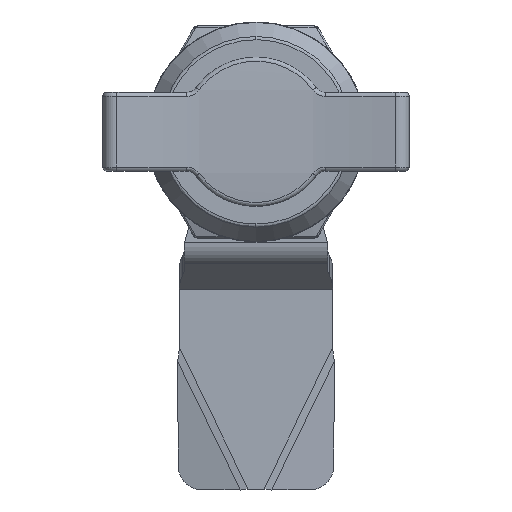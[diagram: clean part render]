
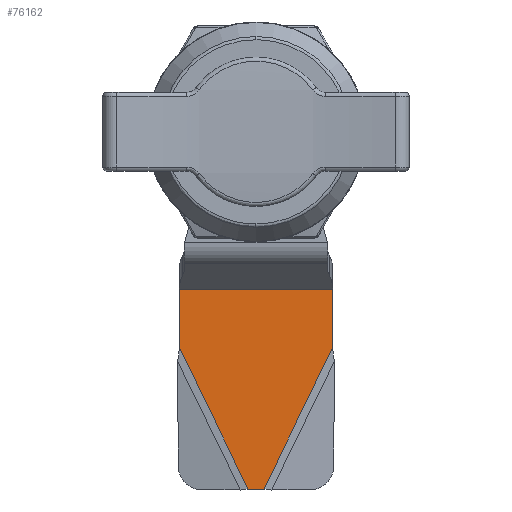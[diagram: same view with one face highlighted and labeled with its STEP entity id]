
A CAD part, top view. The second image highlights one B-rep face of the part: STEP entity #76162.
In plain terms, the highlighted planar face has unit normal (0, 0, 1) as drawn and (0, 1, 0) by its records, which use the part's own axes.
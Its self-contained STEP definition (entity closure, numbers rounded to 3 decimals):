
#55 = CARTESIAN_POINT ( 'NONE',  ( -53.95, -7., -1. ) ) ;
#118 = VERTEX_POINT ( 'NONE', #10189 ) ;
#7516 = LINE ( 'NONE', #38605, #61384 ) ;
#8392 = VECTOR ( 'NONE', #24409, 1000. ) ;
#10189 = CARTESIAN_POINT ( 'NONE',  ( -28.555, -7., -9.75 ) ) ;
#13082 = EDGE_CURVE ( 'NONE', #58122, #118, #92235, .T. ) ;
#15057 = DIRECTION ( 'NONE',  ( 0., 0., 1. ) ) ;
#16306 = ORIENTED_EDGE ( 'NONE', *, *, #13082, .T. ) ;
#17354 = CARTESIAN_POINT ( 'NONE',  ( -28.555, -7., 9.75 ) ) ;
#19736 = EDGE_LOOP ( 'NONE', ( #80976, #16306, #82785, #37657, #66783, #93226 ) ) ;
#24409 = DIRECTION ( 'NONE',  ( 0., 0., -1. ) ) ;
#26128 = AXIS2_PLACEMENT_3D ( 'NONE', #59539, #75839, #29441 ) ;
#26592 = VERTEX_POINT ( 'NONE', #36480 ) ;
#26873 = EDGE_CURVE ( 'NONE', #30981, #88372, #84396, .T. ) ;
#28427 = PLANE ( 'NONE',  #26128 ) ;
#29441 = DIRECTION ( 'NONE',  ( 0., 0., 1. ) ) ;
#30635 = LINE ( 'NONE', #61743, #93879 ) ;
#30824 = EDGE_CURVE ( 'NONE', #118, #26592, #30635, .T. ) ;
#30981 = VERTEX_POINT ( 'NONE', #55 ) ;
#36095 = FACE_OUTER_BOUND ( 'NONE', #19736, .T. ) ;
#36480 = CARTESIAN_POINT ( 'NONE',  ( -35.95, -7., -9.75 ) ) ;
#37525 = EDGE_CURVE ( 'NONE', #26592, #30981, #98220, .T. ) ;
#37657 = ORIENTED_EDGE ( 'NONE', *, *, #37525, .T. ) ;
#38605 = CARTESIAN_POINT ( 'NONE',  ( -50.95, -7., 9.75 ) ) ;
#40482 = LINE ( 'NONE', #46109, #88994 ) ;
#45129 = CARTESIAN_POINT ( 'NONE',  ( -53.95, -7., -6.75 ) ) ;
#46109 = CARTESIAN_POINT ( 'NONE',  ( -17.58, -7., 18.68 ) ) ;
#49110 = CARTESIAN_POINT ( 'NONE',  ( -53.95, -7., 1. ) ) ;
#58122 = VERTEX_POINT ( 'NONE', #17354 ) ;
#59539 = CARTESIAN_POINT ( 'NONE',  ( -4.863, -7., 0. ) ) ;
#61029 = CARTESIAN_POINT ( 'NONE',  ( -17.58, -7., -18.68 ) ) ;
#61384 = VECTOR ( 'NONE', #69174, 1000. ) ;
#61743 = CARTESIAN_POINT ( 'NONE',  ( -50.95, -7., -9.75 ) ) ;
#63689 = EDGE_CURVE ( 'NONE', #82625, #88372, #40482, .T. ) ;
#66783 = ORIENTED_EDGE ( 'NONE', *, *, #26873, .T. ) ;
#68086 = CARTESIAN_POINT ( 'NONE',  ( -35.95, -7., 9.75 ) ) ;
#69174 = DIRECTION ( 'NONE',  ( 1., 0., 0. ) ) ;
#70298 = CARTESIAN_POINT ( 'NONE',  ( -28.555, -7., 0. ) ) ;
#74033 = VECTOR ( 'NONE', #90608, 1000. ) ;
#75839 = DIRECTION ( 'NONE',  ( 0., 1., 0. ) ) ;
#76162 = ADVANCED_FACE ( 'NONE', ( #36095 ), #28427, .T. ) ;
#80976 = ORIENTED_EDGE ( 'NONE', *, *, #93344, .T. ) ;
#82625 = VERTEX_POINT ( 'NONE', #68086 ) ;
#82785 = ORIENTED_EDGE ( 'NONE', *, *, #30824, .T. ) ;
#84396 = LINE ( 'NONE', #45129, #92731 ) ;
#88372 = VERTEX_POINT ( 'NONE', #49110 ) ;
#88994 = VECTOR ( 'NONE', #100631, 1000. ) ;
#90608 = DIRECTION ( 'NONE',  ( -0.899, 0., 0.437 ) ) ;
#92235 = LINE ( 'NONE', #70298, #8392 ) ;
#92731 = VECTOR ( 'NONE', #15057, 1000. ) ;
#93226 = ORIENTED_EDGE ( 'NONE', *, *, #63689, .F. ) ;
#93344 = EDGE_CURVE ( 'NONE', #82625, #58122, #7516, .T. ) ;
#93879 = VECTOR ( 'NONE', #98416, 1000. ) ;
#98220 = LINE ( 'NONE', #61029, #74033 ) ;
#98416 = DIRECTION ( 'NONE',  ( -1., 0., 0. ) ) ;
#100631 = DIRECTION ( 'NONE',  ( -0.899, 0., -0.437 ) ) ;
